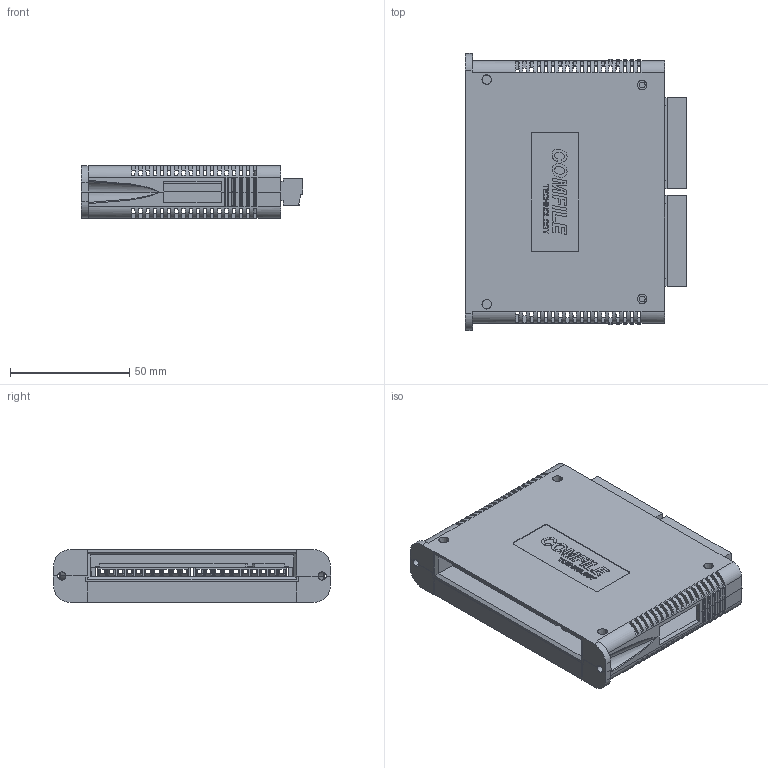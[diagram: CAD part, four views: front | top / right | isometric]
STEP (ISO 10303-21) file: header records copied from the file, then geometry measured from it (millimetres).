
FILE_DESCRIPTION (( 'STEP AP214' ), '1' );
FILE_NAME ('I2-EDI16_ASM.STEP', '2016-06-14T04:15:28', ( 'Registered User' ), ( 'Microsoft Corporation' ), 'SwSTEP 2.0', 'SolidWorks 2014', '' );
FILE_SCHEMA (( 'AUTOMOTIVE_DESIGN' ));
Length unit declared in the file: millimetre
Products named in the file (1): I2-EDI16_ASM
Bounding box: 92.6 x 116 x 22 mm (x, y, z)
Surface area: 55903.7 mm2 (no closed solid volume)
Topology: 0 solids, 12 shells, 1177 faces, 4499 edges, 3177 vertices
Faces by surface type: plane 941, cylinder 220, cone 12, bspline 4
Entity records: 59174 total; most frequent: CARTESIAN_POINT 10532, ORIENTED_EDGE 7081, DIRECTION 6734, EDGE_CURVE 4499, LINE 3576, VECTOR 3576, VERTEX_POINT 3177, AXIS2_PLACEMENT_3D 1579
